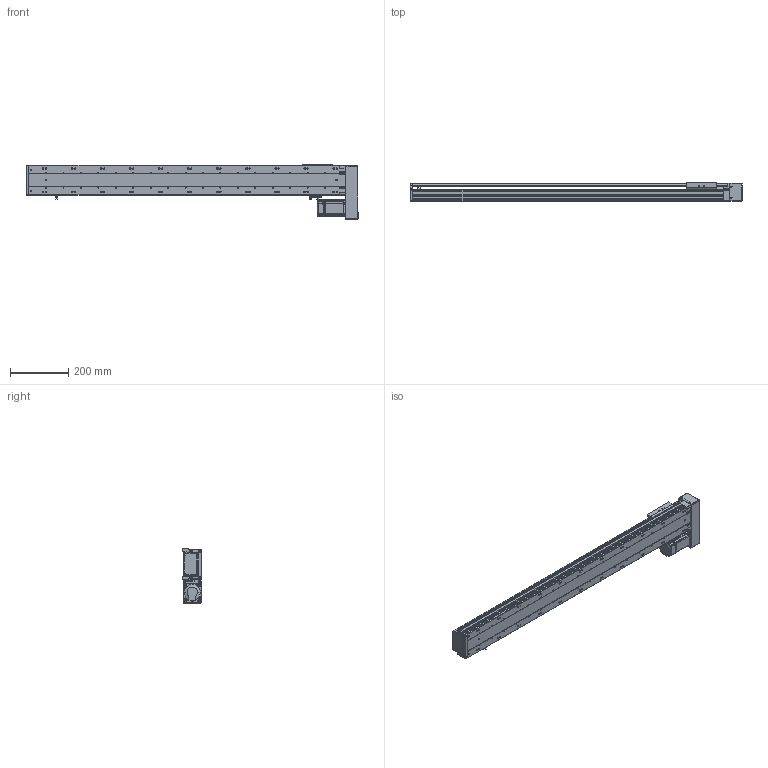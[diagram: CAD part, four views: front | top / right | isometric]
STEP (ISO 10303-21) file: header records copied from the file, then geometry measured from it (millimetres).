
FILE_DESCRIPTION (( 'STEP AP203' ), '1' );
FILE_NAME ('RY100S-L1610-900-RK.STEP', '2022-07-14T12:21:45', ( '' ), ( '' ), 'SwSTEP 2.0', 'SolidWorks 2016', '' );
FILE_SCHEMA (( 'CONFIG_CONTROL_DESIGN' ));
Length unit declared in the file: millimetre
Products named in the file (14): RY100S-350-LK型材底座(低组15双轨)_900; 1; RY100綴裔啣; RY100俋离覜茼え; 滅袉蝶18-24; 滅袉蝶18-10; RY100S-300-LK转折型材上盖(15双轨)_900; 100S铝滑块（15双轨单滑块）低组装; RY100S转折电机安装板（15双轨）; RY100S左右折电机罩（15双轨）; RY100S转折电机端支撑座(15双轨); 侂狟200W萇儂; 覜茼ん672; RY100S-L1610-900-RK
Assembly tree (15 placements, depth 3):
  RY100S-L1610-900-RK
    RY100S-350-LK型材底座(低组15双轨)_900
    RY100S-300-LK转折型材上盖(15双轨)_900
    覜茼ん672  x3
    滅袉蝶18-10
    RY100俋离覜茼え
    RY100S转折电机端支撑座(15双轨)
    滅袉蝶18-24
    RY100綴裔啣
    RY100S左右折电机罩（15双轨）
    RY100S转折电机安装板（15双轨）
    侂狟200W萇儂
      1
    100S铝滑块（15双轨单滑块）低组装
Bounding box: 1142.5 x 65 x 186.1 mm (x, y, z)
Volume: 2518076.3 mm3; surface area: 990877.2 mm2
Topology: 14 solids, 14 shells, 2107 faces, 5822 edges, 3756 vertices
Faces by surface type: plane 968, cylinder 921, cone 137, bspline 81
Entity records: 69349 total; most frequent: CARTESIAN_POINT 18702, ORIENTED_EDGE 10488, DIRECTION 9943, EDGE_CURVE 5244, AXIS2_PLACEMENT_3D 3503, VERTEX_POINT 3436, LINE 2937, VECTOR 2937
